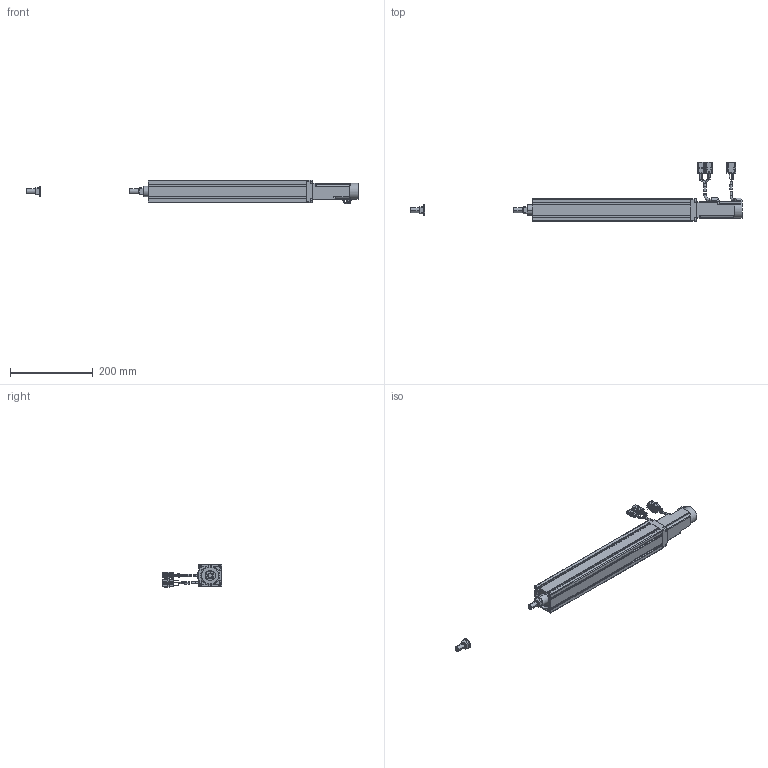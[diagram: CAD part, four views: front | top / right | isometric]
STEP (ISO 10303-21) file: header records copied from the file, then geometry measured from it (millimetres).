
FILE_DESCRIPTION((''),'2;1');
FILE_NAME('BET5E-ST-C_B-25_IGS_PRT','2017-06-18T',(' '),(''),'PRO/ENGINEER BY PARAMETRIC TECHNOLOGY CORPORATION, 2015030','PRO/ENGINEER BY PARAMETRIC TECHNOLOGY CORPORATION, 2015030','');
FILE_SCHEMA(('CONFIG_CONTROL_DESIGN'));
Length unit declared in the file: millimetre
Products named in the file (1): BET5E-ST-C_B-25_IGS_PRT
Bounding box: 804.1 x 142.99 x 57.56 mm (x, y, z)
Volume: 1002001.1 mm3; surface area: 273849.6 mm2
Topology: 8 solids, 34 shells, 986 faces, 2605 edges, 1692 vertices
Faces by surface type: plane 649, cylinder 251, torus 62, cone 20, sphere 4
Entity records: 30633 total; most frequent: CARTESIAN_POINT 5601, DIRECTION 5197, ORIENTED_EDGE 5134, EDGE_CURVE 2595, VECTOR 1879, LINE 1879, VERTEX_POINT 1692, AXIS2_PLACEMENT_3D 1659
